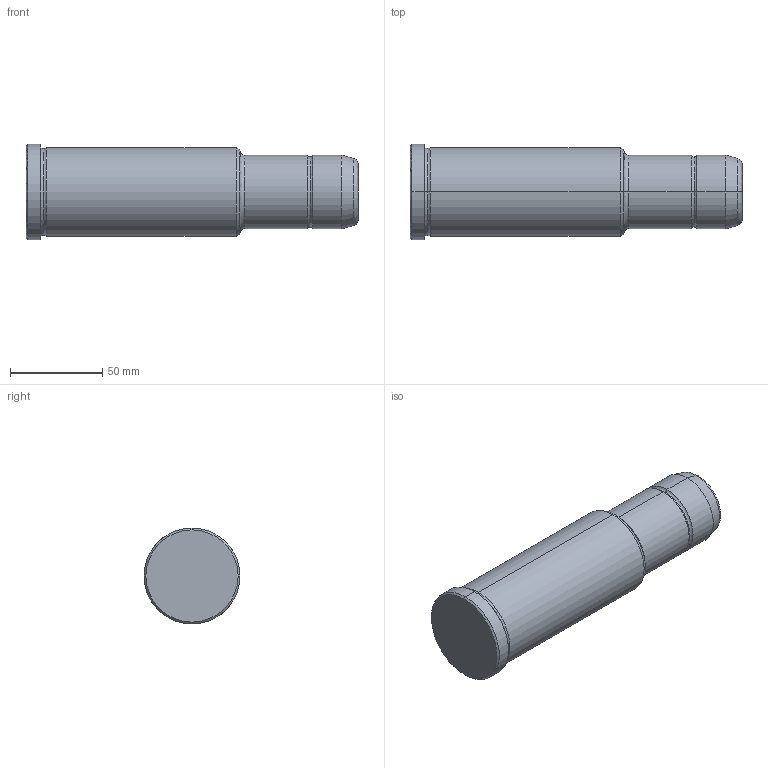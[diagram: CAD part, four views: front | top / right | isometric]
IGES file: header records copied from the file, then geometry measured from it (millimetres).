
Start section: START RECORD GO HERE.
Global section: file name: 351-40X116X180.igs; native system: DASSAULT SYSTEMES CATIA V5 R20 - www.3ds.com; preprocessor: CATIA Version 5 Release 20 ; author: Utente; organization: NB04-ASUS; date: 20211007.153544; units: millimetre
Bounding box: 180 x 52 x 52 mm (x, y, z)
Surface area: 29243.1 mm2 (no closed solid volume)
Topology: 0 solids, 0 shells, 30 faces, 172 edges, 172 vertices
Faces by surface type: revolution 26, plane 4
